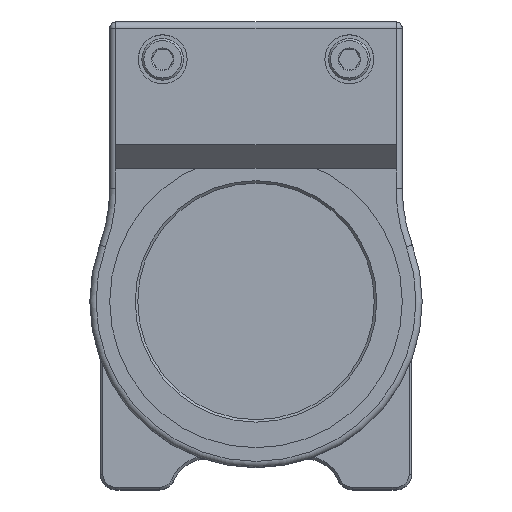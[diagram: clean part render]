
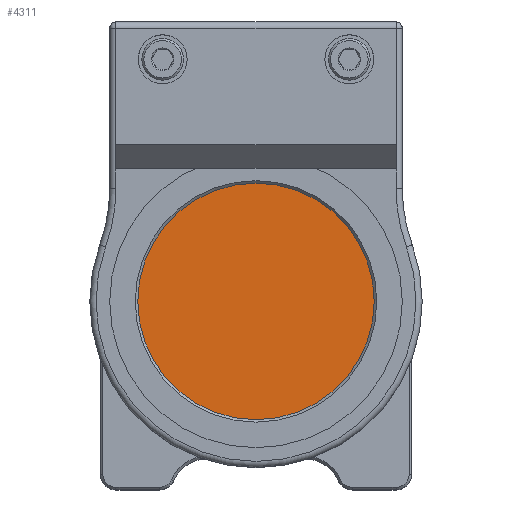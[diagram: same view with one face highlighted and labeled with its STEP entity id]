
A CAD part, top view. The second image highlights one B-rep face of the part: STEP entity #4311.
In plain terms, the highlighted planar face has unit normal (0, 0, 1).
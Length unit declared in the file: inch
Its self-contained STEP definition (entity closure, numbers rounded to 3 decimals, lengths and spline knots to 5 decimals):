
#1310 = FACE_OUTER_BOUND ( 'NONE', #27210, .T. ) ;
#1533 = CIRCLE ( 'NONE', #28564, 1.14 ) ;
#2228 = EDGE_CURVE ( 'NONE', #5788, #5788, #1533, .T. ) ;
#4311 = ADVANCED_FACE ( 'NONE', ( #1310 ), #9944, .T. ) ;
#5788 = VERTEX_POINT ( 'NONE', #12621 ) ;
#6076 = ORIENTED_EDGE ( 'NONE', *, *, #2228, .T. ) ;
#9944 = PLANE ( 'NONE',  #23747 ) ;
#10371 = CARTESIAN_POINT ( 'NONE',  ( 0., 0., 0.09375 ) ) ;
#12621 = CARTESIAN_POINT ( 'NONE',  ( 1.14, 0., 0.09375 ) ) ;
#23747 = AXIS2_PLACEMENT_3D ( 'NONE', #10371, #23749, #26110 ) ;
#23749 = DIRECTION ( 'NONE',  ( 0., 0., 1. ) ) ;
#24763 = DIRECTION ( 'NONE',  ( 0., 0., 1. ) ) ;
#25046 = DIRECTION ( 'NONE',  ( 1., 0., 0. ) ) ;
#26110 = DIRECTION ( 'NONE',  ( 1., 0., 0. ) ) ;
#27210 = EDGE_LOOP ( 'NONE', ( #6076 ) ) ;
#27271 = CARTESIAN_POINT ( 'NONE',  ( 0., 0., 0.09375 ) ) ;
#28564 = AXIS2_PLACEMENT_3D ( 'NONE', #27271, #24763, #25046 ) ;
